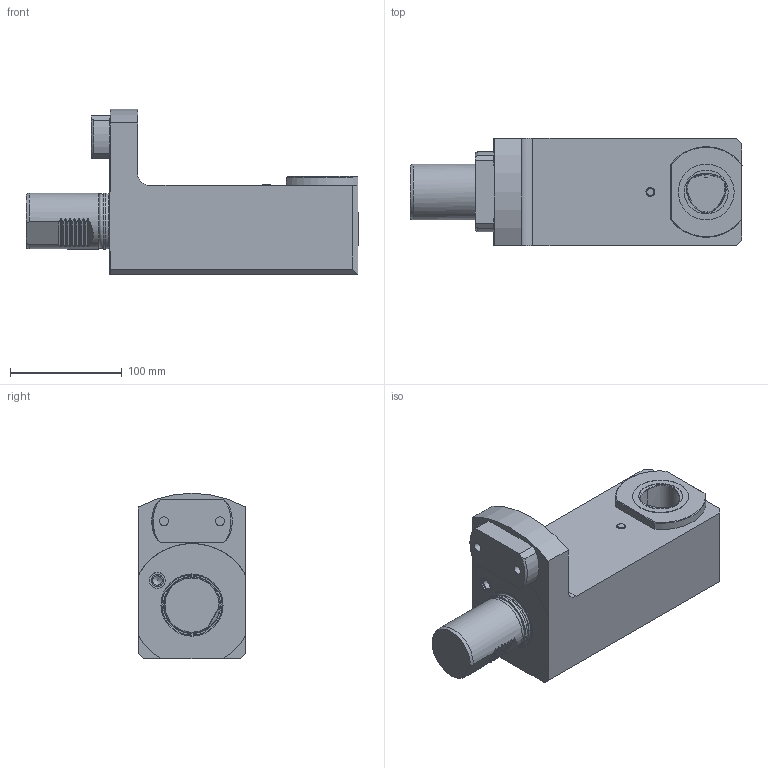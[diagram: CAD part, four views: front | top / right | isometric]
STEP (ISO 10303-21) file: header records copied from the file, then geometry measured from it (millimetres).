
FILE_DESCRIPTION(/* description */ (''),/* implementation_level */ '2;1');
FILE_NAME(/* name */ '197621',/* time_stamp */ '2020-12-10T13:08:09+01:00',/* author */ (''),/* organization */ (''),/* preprocessor_version */ 'ST-DEVELOPER v16.5',/* originating_system */ 'HiCAD 2017 2201.0 Build 268',/* authorisation */ '');
FILE_SCHEMA (('AUTOMOTIVE_DESIGN { 1 0 10303 214 1 1 1 1 }'));
Length unit declared in the file: millimetre
Products named in the file (2): Root; Teil
Assembly tree (1 placements, depth 2):
  Root
    Teil
Bounding box: 297 x 96 x 148 mm (x, y, z)
Volume: 2039563.5 mm3; surface area: 133267.5 mm2
Topology: 1 solids, 3 shells, 182 faces, 469 edges, 311 vertices
Faces by surface type: plane 95, cylinder 57, cone 14, torus 10, bspline 4, sphere 2
Full cylindrical faces by diameter (mm): 3 x1, 8 x2, 8.5 x1, 10.82 x1, 14.18 x1, 14.27 x1, 17.9 x1, 18.2 x1, 39.2 x1, 43.8 x2, 48.7 x1, 50 x3
Entity records: 6161 total; most frequent: CARTESIAN_POINT 1961, DIRECTION 890, ORIENTED_EDGE 832, EDGE_CURVE 416, AXIS2_PLACEMENT_3D 345, VERTEX_POINT 291, FACE_BOUND 237, EDGE_LOOP 236
